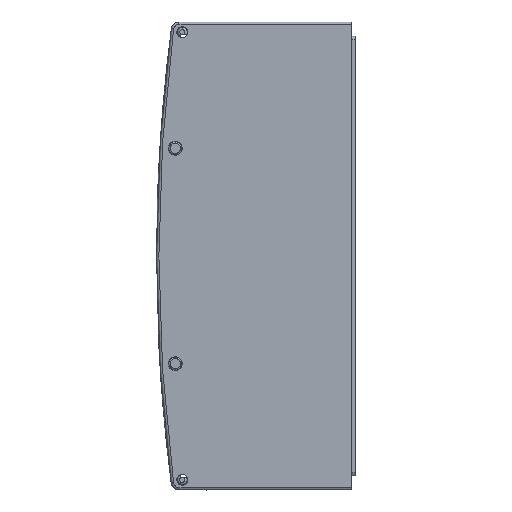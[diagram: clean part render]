
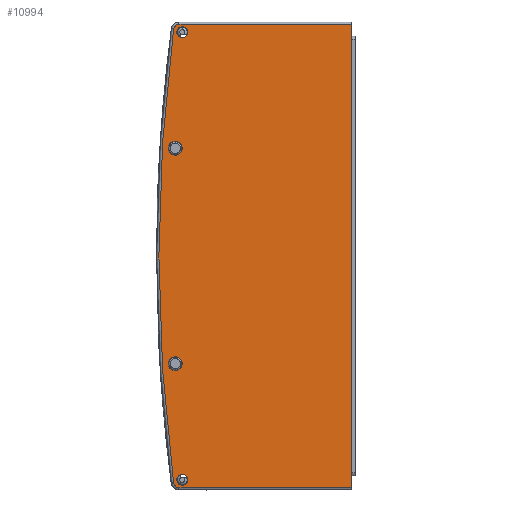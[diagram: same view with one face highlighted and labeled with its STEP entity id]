
A CAD part, left-side view. The second image highlights one B-rep face of the part: STEP entity #10994.
In plain terms, the highlighted planar face has unit normal (-1, 0, 0).
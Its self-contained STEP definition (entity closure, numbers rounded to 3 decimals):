
#409 = ORIENTED_EDGE ( 'NONE', *, *, #4010, .T. ) ;
#861 = EDGE_CURVE ( 'NONE', #5521, #53992, #6523, .T. ) ;
#1338 = VERTEX_POINT ( 'NONE', #32137 ) ;
#1417 = EDGE_CURVE ( 'NONE', #35772, #27762, #48815, .T. ) ;
#1448 = DIRECTION ( 'NONE',  ( 0., 0., -1. ) ) ;
#1596 = EDGE_CURVE ( 'NONE', #12720, #11040, #27732, .T. ) ;
#2090 = CARTESIAN_POINT ( 'NONE',  ( -22.5, 15.296, -14.7 ) ) ;
#2168 = VERTEX_POINT ( 'NONE', #38679 ) ;
#3069 = FACE_OUTER_BOUND ( 'NONE', #7634, .T. ) ;
#3510 = AXIS2_PLACEMENT_3D ( 'NONE', #38741, #13409, #42963 ) ;
#3666 = ORIENTED_EDGE ( 'NONE', *, *, #35019, .T. ) ;
#4010 = EDGE_CURVE ( 'NONE', #38460, #24510, #16458, .T. ) ;
#4136 = ORIENTED_EDGE ( 'NONE', *, *, #20805, .T. ) ;
#4690 = CARTESIAN_POINT ( 'NONE',  ( -22.5, 15.296, 14.7 ) ) ;
#5521 = VERTEX_POINT ( 'NONE', #43683 ) ;
#6143 = EDGE_LOOP ( 'NONE', ( #41927, #4136 ) ) ;
#6523 = CIRCLE ( 'NONE', #22047, 0.9 ) ;
#6695 = ORIENTED_EDGE ( 'NONE', *, *, #9721, .T. ) ;
#7208 = AXIS2_PLACEMENT_3D ( 'NONE', #45554, #20267, #49797 ) ;
#7289 = AXIS2_PLACEMENT_3D ( 'NONE', #8680, #38294, #12958 ) ;
#7443 = VERTEX_POINT ( 'NONE', #44369 ) ;
#7634 = EDGE_LOOP ( 'NONE', ( #409, #23123, #38445, #3666, #45507, #6695 ) ) ;
#7762 = ORIENTED_EDGE ( 'NONE', *, *, #1417, .T. ) ;
#8426 = CARTESIAN_POINT ( 'NONE',  ( -22.5, 10.696, 29.7 ) ) ;
#8680 = CARTESIAN_POINT ( 'NONE',  ( -22.5, 14.819, -29. ) ) ;
#9721 = EDGE_CURVE ( 'NONE', #1338, #38460, #35608, .T. ) ;
#10339 = CIRCLE ( 'NONE', #24141, 0.9 ) ;
#10845 = DIRECTION ( 'NONE',  ( 1., 0., 0. ) ) ;
#10994 = ADVANCED_FACE ( 'NONE', ( #3069, #14386, #48063, #35561, #24292 ), #17479, .F. ) ;
#11040 = VERTEX_POINT ( 'NONE', #22083 ) ;
#11165 = ORIENTED_EDGE ( 'NONE', *, *, #54352, .T. ) ;
#11580 = CIRCLE ( 'NONE', #41957, 0.7 ) ;
#11582 = EDGE_CURVE ( 'NONE', #26855, #29329, #10339, .T. ) ;
#12720 = VERTEX_POINT ( 'NONE', #45269 ) ;
#12958 = DIRECTION ( 'NONE',  ( 0., 0., -1. ) ) ;
#13049 = LINE ( 'NONE', #17765, #45422 ) ;
#13221 = AXIS2_PLACEMENT_3D ( 'NONE', #21349, #50901, #25595 ) ;
#13409 = DIRECTION ( 'NONE',  ( 1., 0., 0. ) ) ;
#14386 = FACE_BOUND ( 'NONE', #16561, .T. ) ;
#15029 = AXIS2_PLACEMENT_3D ( 'NONE', #20788, #50316, #25029 ) ;
#15856 = DIRECTION ( 'NONE',  ( 1., 0., 0. ) ) ;
#16064 = VECTOR ( 'NONE', #53651, 1000. ) ;
#16097 = DIRECTION ( 'NONE',  ( 1., 0., 0. ) ) ;
#16458 = CIRCLE ( 'NONE', #7289, 0.7 ) ;
#16561 = EDGE_LOOP ( 'NONE', ( #20660, #36332 ) ) ;
#16669 = CARTESIAN_POINT ( 'NONE',  ( -22.5, 14.396, -29.4 ) ) ;
#16944 = EDGE_LOOP ( 'NONE', ( #11165, #7762 ) ) ;
#17331 = ORIENTED_EDGE ( 'NONE', *, *, #11582, .T. ) ;
#17479 = PLANE ( 'NONE',  #3510 ) ;
#17765 = CARTESIAN_POINT ( 'NONE',  ( -22.5, -7.304, 29.7 ) ) ;
#19203 = LINE ( 'NONE', #8426, #51579 ) ;
#19548 = EDGE_CURVE ( 'NONE', #23028, #1338, #48718, .T. ) ;
#19957 = EDGE_CURVE ( 'NONE', #29329, #26855, #26210, .T. ) ;
#20120 = AXIS2_PLACEMENT_3D ( 'NONE', #36161, #10845, #40408 ) ;
#20267 = DIRECTION ( 'NONE',  ( 1., 0., 0. ) ) ;
#20660 = ORIENTED_EDGE ( 'NONE', *, *, #23503, .T. ) ;
#20788 = CARTESIAN_POINT ( 'NONE',  ( -22.5, 14.819, 29. ) ) ;
#20805 = EDGE_CURVE ( 'NONE', #11040, #12720, #11580, .T. ) ;
#21349 = CARTESIAN_POINT ( 'NONE',  ( -22.5, 14.396, 28.7 ) ) ;
#21537 = CARTESIAN_POINT ( 'NONE',  ( -22.5, 14.396, -28.7 ) ) ;
#22047 = AXIS2_PLACEMENT_3D ( 'NONE', #41405, #16097, #45622 ) ;
#22083 = CARTESIAN_POINT ( 'NONE',  ( -22.5, 14.396, 29.4 ) ) ;
#22390 = DIRECTION ( 'NONE',  ( 1., 0., 0. ) ) ;
#23028 = VERTEX_POINT ( 'NONE', #44130 ) ;
#23123 = ORIENTED_EDGE ( 'NONE', *, *, #33456, .T. ) ;
#23276 = CARTESIAN_POINT ( 'NONE',  ( -22.5, 14.819, -29.7 ) ) ;
#23503 = EDGE_CURVE ( 'NONE', #53992, #5521, #27321, .T. ) ;
#24141 = AXIS2_PLACEMENT_3D ( 'NONE', #52115, #26820, #1448 ) ;
#24292 = FACE_BOUND ( 'NONE', #16944, .T. ) ;
#24510 = VERTEX_POINT ( 'NONE', #23276 ) ;
#24980 = DIRECTION ( 'NONE',  ( -1., 0., 0. ) ) ;
#25029 = DIRECTION ( 'NONE',  ( 0., 0., -1. ) ) ;
#25595 = DIRECTION ( 'NONE',  ( 0., 0., -1. ) ) ;
#25610 = AXIS2_PLACEMENT_3D ( 'NONE', #41152, #15856, #45386 ) ;
#25774 = DIRECTION ( 'NONE',  ( 0., 0., -1. ) ) ;
#26210 = CIRCLE ( 'NONE', #7208, 0.9 ) ;
#26820 = DIRECTION ( 'NONE',  ( 1., 0., 0. ) ) ;
#26855 = VERTEX_POINT ( 'NONE', #4690 ) ;
#27321 = CIRCLE ( 'NONE', #20120, 0.9 ) ;
#27732 = CIRCLE ( 'NONE', #13221, 0.7 ) ;
#27762 = VERTEX_POINT ( 'NONE', #16669 ) ;
#28256 = EDGE_LOOP ( 'NONE', ( #40035, #17331 ) ) ;
#28370 = CARTESIAN_POINT ( 'NONE',  ( -22.5, -7.104, -29.7 ) ) ;
#29329 = VERTEX_POINT ( 'NONE', #53451 ) ;
#29515 = DIRECTION ( 'NONE',  ( 0., 1., 0. ) ) ;
#32137 = CARTESIAN_POINT ( 'NONE',  ( -22.5, 15.513, 29.09 ) ) ;
#33456 = EDGE_CURVE ( 'NONE', #24510, #7443, #39882, .T. ) ;
#35019 = EDGE_CURVE ( 'NONE', #2168, #23028, #19203, .T. ) ;
#35561 = FACE_BOUND ( 'NONE', #6143, .T. ) ;
#35608 = CIRCLE ( 'NONE', #36440, 225.7 ) ;
#35772 = VERTEX_POINT ( 'NONE', #44373 ) ;
#36161 = CARTESIAN_POINT ( 'NONE',  ( -22.5, 15.296, -13.8 ) ) ;
#36332 = ORIENTED_EDGE ( 'NONE', *, *, #861, .T. ) ;
#36440 = AXIS2_PLACEMENT_3D ( 'NONE', #50267, #24980, #54510 ) ;
#38294 = DIRECTION ( 'NONE',  ( -1., 0., 0. ) ) ;
#38445 = ORIENTED_EDGE ( 'NONE', *, *, #45618, .F. ) ;
#38460 = VERTEX_POINT ( 'NONE', #54046 ) ;
#38679 = CARTESIAN_POINT ( 'NONE',  ( -22.5, -7.304, 29.7 ) ) ;
#38741 = CARTESIAN_POINT ( 'NONE',  ( -22.5, 22.196, -30. ) ) ;
#39882 = LINE ( 'NONE', #28370, #16064 ) ;
#40035 = ORIENTED_EDGE ( 'NONE', *, *, #19957, .T. ) ;
#40408 = DIRECTION ( 'NONE',  ( 0., 0., -1. ) ) ;
#41152 = CARTESIAN_POINT ( 'NONE',  ( -22.5, 14.396, -28.7 ) ) ;
#41405 = CARTESIAN_POINT ( 'NONE',  ( -22.5, 15.296, -13.8 ) ) ;
#41927 = ORIENTED_EDGE ( 'NONE', *, *, #1596, .T. ) ;
#41957 = AXIS2_PLACEMENT_3D ( 'NONE', #47653, #22390, #51933 ) ;
#42963 = DIRECTION ( 'NONE',  ( 0., 1., 0. ) ) ;
#43683 = CARTESIAN_POINT ( 'NONE',  ( -22.5, 15.296, -12.9 ) ) ;
#44130 = CARTESIAN_POINT ( 'NONE',  ( -22.5, 14.819, 29.7 ) ) ;
#44369 = CARTESIAN_POINT ( 'NONE',  ( -22.5, -7.304, -29.7 ) ) ;
#44373 = CARTESIAN_POINT ( 'NONE',  ( -22.5, 14.396, -28. ) ) ;
#45269 = CARTESIAN_POINT ( 'NONE',  ( -22.5, 14.396, 28. ) ) ;
#45386 = DIRECTION ( 'NONE',  ( 0., 0., -1. ) ) ;
#45422 = VECTOR ( 'NONE', #47278, 1000. ) ;
#45507 = ORIENTED_EDGE ( 'NONE', *, *, #19548, .T. ) ;
#45554 = CARTESIAN_POINT ( 'NONE',  ( -22.5, 15.296, 13.8 ) ) ;
#45618 = EDGE_CURVE ( 'NONE', #2168, #7443, #13049, .T. ) ;
#45622 = DIRECTION ( 'NONE',  ( 0., 0., -1. ) ) ;
#47278 = DIRECTION ( 'NONE',  ( 0., 0., -1. ) ) ;
#47653 = CARTESIAN_POINT ( 'NONE',  ( -22.5, 14.396, 28.7 ) ) ;
#48063 = FACE_BOUND ( 'NONE', #28256, .T. ) ;
#48718 = CIRCLE ( 'NONE', #15029, 0.7 ) ;
#48815 = CIRCLE ( 'NONE', #25610, 0.7 ) ;
#49797 = DIRECTION ( 'NONE',  ( 0., 0., -1. ) ) ;
#50267 = CARTESIAN_POINT ( 'NONE',  ( -22.5, -208.304, 0. ) ) ;
#50316 = DIRECTION ( 'NONE',  ( -1., 0., 0. ) ) ;
#50901 = DIRECTION ( 'NONE',  ( 1., 0., 0. ) ) ;
#51079 = DIRECTION ( 'NONE',  ( 1., 0., 0. ) ) ;
#51579 = VECTOR ( 'NONE', #29515, 1000. ) ;
#51655 = CIRCLE ( 'NONE', #53534, 0.7 ) ;
#51933 = DIRECTION ( 'NONE',  ( 0., 0., -1. ) ) ;
#52115 = CARTESIAN_POINT ( 'NONE',  ( -22.5, 15.296, 13.8 ) ) ;
#53451 = CARTESIAN_POINT ( 'NONE',  ( -22.5, 15.296, 12.9 ) ) ;
#53534 = AXIS2_PLACEMENT_3D ( 'NONE', #21537, #51079, #25774 ) ;
#53651 = DIRECTION ( 'NONE',  ( 0., -1., 0. ) ) ;
#53992 = VERTEX_POINT ( 'NONE', #2090 ) ;
#54046 = CARTESIAN_POINT ( 'NONE',  ( -22.5, 15.513, -29.09 ) ) ;
#54352 = EDGE_CURVE ( 'NONE', #27762, #35772, #51655, .T. ) ;
#54510 = DIRECTION ( 'NONE',  ( 0., 0., -1. ) ) ;
